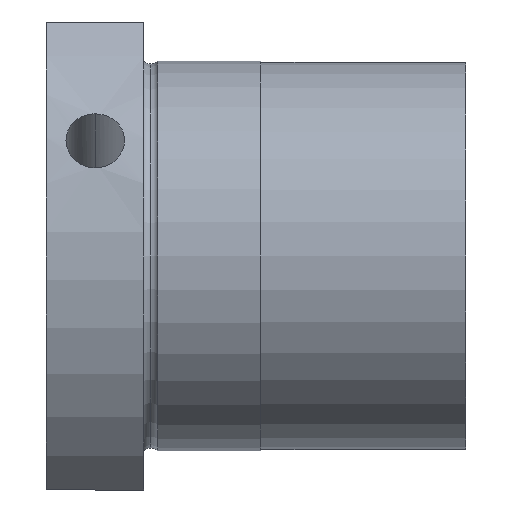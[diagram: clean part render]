
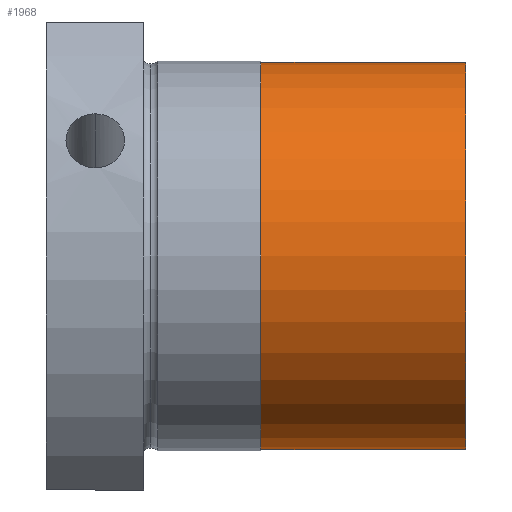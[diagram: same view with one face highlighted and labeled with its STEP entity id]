
A CAD part, front view. The second image highlights one B-rep face of the part: STEP entity #1968.
In plain terms, the highlighted cylindrical face has radius 19.85 mm (diameter 39.7 mm), a partial arc.
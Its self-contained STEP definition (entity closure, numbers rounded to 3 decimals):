
#13 = VECTOR ( 'NONE', #1296, 1000. ) ;
#534 = CIRCLE ( 'NONE', #4541, 19.85 ) ;
#807 = EDGE_CURVE ( 'NONE', #1779, #5097, #2625, .T. ) ;
#1272 = DIRECTION ( 'NONE',  ( -1., 0., 0. ) ) ;
#1296 = DIRECTION ( 'NONE',  ( -1., 0., 0. ) ) ;
#1345 = CARTESIAN_POINT ( 'NONE',  ( 30.677, 0., 0. ) ) ;
#1768 = LINE ( 'NONE', #4339, #4257 ) ;
#1779 = VERTEX_POINT ( 'NONE', #2166 ) ;
#1832 = DIRECTION ( 'NONE',  ( 0., 0., 1. ) ) ;
#1968 = ADVANCED_FACE ( 'NONE', ( #2073 ), #4568, .T. ) ;
#2073 = FACE_OUTER_BOUND ( 'NONE', #2455, .T. ) ;
#2158 = EDGE_CURVE ( 'NONE', #4120, #5097, #5699, .T. ) ;
#2166 = CARTESIAN_POINT ( 'NONE',  ( 30.677, 0., 19.85 ) ) ;
#2228 = EDGE_CURVE ( 'NONE', #2308, #4120, #1768, .T. ) ;
#2255 = CARTESIAN_POINT ( 'NONE',  ( -100.792, 0., 19.85 ) ) ;
#2308 = VERTEX_POINT ( 'NONE', #4845 ) ;
#2348 = DIRECTION ( 'NONE',  ( -1., 0., 0. ) ) ;
#2455 = EDGE_LOOP ( 'NONE', ( #4117, #3135, #3169, #3559 ) ) ;
#2625 = LINE ( 'NONE', #2255, #13 ) ;
#2769 = CARTESIAN_POINT ( 'NONE',  ( -100.792, 0., 0. ) ) ;
#3135 = ORIENTED_EDGE ( 'NONE', *, *, #5874, .T. ) ;
#3169 = ORIENTED_EDGE ( 'NONE', *, *, #807, .T. ) ;
#3559 = ORIENTED_EDGE ( 'NONE', *, *, #2158, .F. ) ;
#3748 = AXIS2_PLACEMENT_3D ( 'NONE', #5314, #2348, #5807 ) ;
#3949 = CARTESIAN_POINT ( 'NONE',  ( 9.677, 0., -19.85 ) ) ;
#4094 = AXIS2_PLACEMENT_3D ( 'NONE', #2769, #1272, #4281 ) ;
#4117 = ORIENTED_EDGE ( 'NONE', *, *, #2228, .F. ) ;
#4120 = VERTEX_POINT ( 'NONE', #3949 ) ;
#4257 = VECTOR ( 'NONE', #6296, 1000. ) ;
#4281 = DIRECTION ( 'NONE',  ( 0., 0., 1. ) ) ;
#4339 = CARTESIAN_POINT ( 'NONE',  ( -100.792, 0., -19.85 ) ) ;
#4541 = AXIS2_PLACEMENT_3D ( 'NONE', #1345, #4802, #1832 ) ;
#4568 = CYLINDRICAL_SURFACE ( 'NONE', #4094, 19.85 ) ;
#4802 = DIRECTION ( 'NONE',  ( -1., 0., 0. ) ) ;
#4845 = CARTESIAN_POINT ( 'NONE',  ( 30.677, 0., -19.85 ) ) ;
#5097 = VERTEX_POINT ( 'NONE', #5517 ) ;
#5314 = CARTESIAN_POINT ( 'NONE',  ( 9.677, 0., 0. ) ) ;
#5517 = CARTESIAN_POINT ( 'NONE',  ( 9.677, 0., 19.85 ) ) ;
#5699 = CIRCLE ( 'NONE', #3748, 19.85 ) ;
#5807 = DIRECTION ( 'NONE',  ( 0., 0., 1. ) ) ;
#5874 = EDGE_CURVE ( 'NONE', #2308, #1779, #534, .T. ) ;
#6296 = DIRECTION ( 'NONE',  ( -1., 0., 0. ) ) ;
